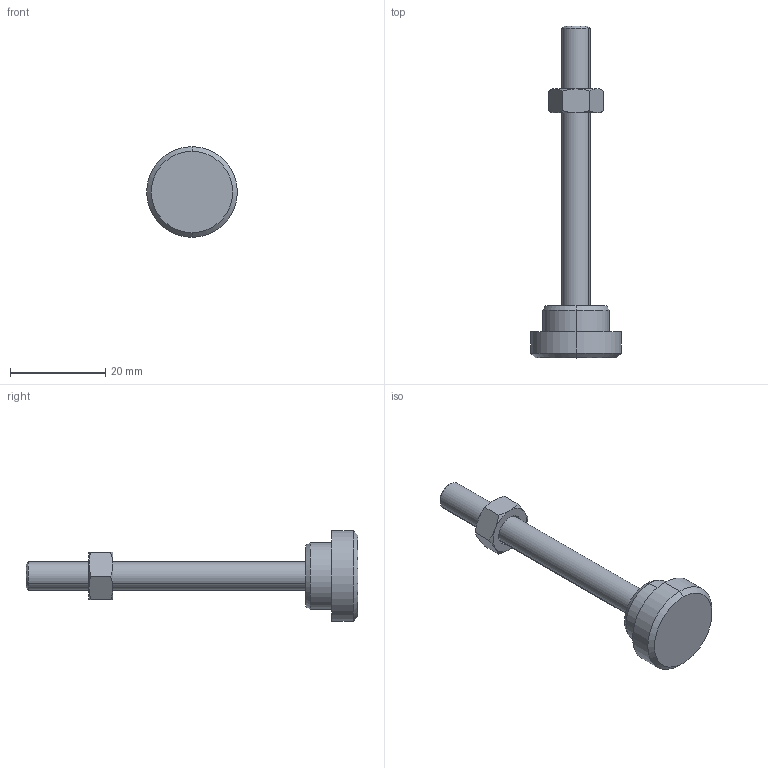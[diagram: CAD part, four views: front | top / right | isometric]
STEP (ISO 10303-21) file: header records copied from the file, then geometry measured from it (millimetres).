
FILE_DESCRIPTION (( 'STEP AP203' ), '1' );
FILE_NAME ('PA-M6.STEP', '2014-01-29T15:27:30', ( 'Ricardo' ), ( '' ), 'SwSTEP 2.0', 'SolidWorks 2012', '' );
FILE_SCHEMA (( 'CONFIG_CONTROL_DESIGN' ));
Length unit declared in the file: millimetre
Products named in the file (4): 11.50001; 12.50019; PA-M6; 20.20003
Assembly tree (3 placements, depth 2):
  PA-M6
    20.20003
    11.50001
    12.50019
Bounding box: 19.05 x 69.7 x 19.05 mm (x, y, z)
Volume: 3878.9 mm3; surface area: 3148.6 mm2
Topology: 3 solids, 3 shells, 54 faces, 114 edges, 67 vertices
Faces by surface type: cone 24, plane 20, cylinder 10
Entity records: 1904 total; most frequent: CARTESIAN_POINT 359, DIRECTION 250, ORIENTED_EDGE 224, EDGE_CURVE 112, AXIS2_PLACEMENT_3D 102, VERTEX_POINT 67, EDGE_LOOP 59, ADVANCED_FACE 54
